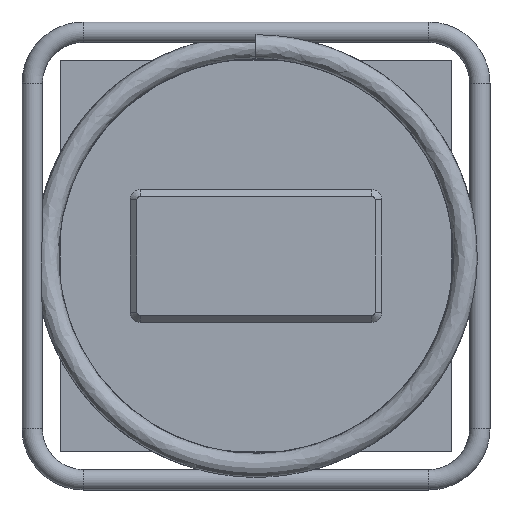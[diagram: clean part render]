
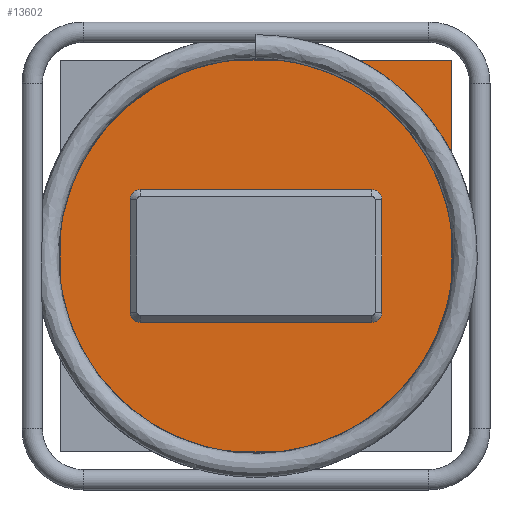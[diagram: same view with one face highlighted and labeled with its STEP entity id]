
A CAD part, front view. The second image highlights one B-rep face of the part: STEP entity #13602.
In plain terms, the highlighted planar face has unit normal (0, -1, 0).
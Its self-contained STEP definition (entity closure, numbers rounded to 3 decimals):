
#63=CIRCLE('',#13959,123.);
#64=CIRCLE('',#13960,123.);
#65=CIRCLE('',#13961,123.);
#89=CIRCLE('',#14014,6.);
#91=CIRCLE('',#14018,6.);
#93=CIRCLE('',#14022,6.);
#95=CIRCLE('',#14026,6.);
#208=FACE_BOUND('',#2681,.T.);
#1877=FACE_OUTER_BOUND('',#2680,.T.);
#2680=EDGE_LOOP('',(#11776,#11777,#11778,#11779,#11780,#11781,#11782));
#2681=EDGE_LOOP('',(#11783,#11784,#11785,#11786,#11787,#11788,#11789,#11790));
#3853=LINE('',#26974,#5009);
#3856=LINE('',#26985,#5012);
#3860=LINE('',#26997,#5016);
#3864=LINE('',#27009,#5020);
#3871=LINE('',#27024,#5027);
#3872=LINE('',#27025,#5028);
#3873=LINE('',#27027,#5029);
#3874=LINE('',#27028,#5030);
#5009=VECTOR('',#15970,136.);
#5012=VECTOR('',#15981,66.);
#5016=VECTOR('',#15993,136.);
#5020=VECTOR('',#16005,66.);
#5027=VECTOR('',#16028,87.27);
#5028=VECTOR('',#16029,87.27);
#5029=VECTOR('',#16030,158.635);
#5030=VECTOR('',#16031,158.635);
#6215=VERTEX_POINT('',#26859);
#6216=VERTEX_POINT('',#26860);
#6217=VERTEX_POINT('',#26862);
#6218=VERTEX_POINT('',#26863);
#6219=VERTEX_POINT('',#26865);
#6220=VERTEX_POINT('',#26866);
#6255=VERTEX_POINT('',#26967);
#6258=VERTEX_POINT('',#26972);
#6260=VERTEX_POINT('',#26977);
#6262=VERTEX_POINT('',#26983);
#6264=VERTEX_POINT('',#26989);
#6266=VERTEX_POINT('',#26995);
#6268=VERTEX_POINT('',#27001);
#6270=VERTEX_POINT('',#27007);
#6271=VERTEX_POINT('',#27026);
#8049=EDGE_CURVE('',#6215,#6216,#63,.T.);
#8050=EDGE_CURVE('',#6217,#6218,#64,.T.);
#8051=EDGE_CURVE('',#6219,#6220,#65,.T.);
#8092=EDGE_CURVE('',#6258,#6255,#3853,.T.);
#8094=EDGE_CURVE('',#6260,#6258,#89,.T.);
#8097=EDGE_CURVE('',#6262,#6260,#3856,.T.);
#8100=EDGE_CURVE('',#6264,#6262,#91,.T.);
#8103=EDGE_CURVE('',#6266,#6264,#3860,.T.);
#8106=EDGE_CURVE('',#6268,#6266,#93,.T.);
#8109=EDGE_CURVE('',#6270,#6268,#3864,.T.);
#8111=EDGE_CURVE('',#6255,#6270,#95,.T.);
#8118=EDGE_CURVE('',#6217,#6216,#3871,.T.);
#8119=EDGE_CURVE('',#6219,#6218,#3872,.T.);
#8120=EDGE_CURVE('',#6271,#6220,#3873,.T.);
#8121=EDGE_CURVE('',#6215,#6271,#3874,.T.);
#11776=ORIENTED_EDGE('',*,*,#8049,.T.);
#11777=ORIENTED_EDGE('',*,*,#8118,.F.);
#11778=ORIENTED_EDGE('',*,*,#8050,.T.);
#11779=ORIENTED_EDGE('',*,*,#8119,.F.);
#11780=ORIENTED_EDGE('',*,*,#8051,.T.);
#11781=ORIENTED_EDGE('',*,*,#8120,.F.);
#11782=ORIENTED_EDGE('',*,*,#8121,.F.);
#11783=ORIENTED_EDGE('',*,*,#8092,.F.);
#11784=ORIENTED_EDGE('',*,*,#8094,.F.);
#11785=ORIENTED_EDGE('',*,*,#8097,.F.);
#11786=ORIENTED_EDGE('',*,*,#8100,.F.);
#11787=ORIENTED_EDGE('',*,*,#8103,.F.);
#11788=ORIENTED_EDGE('',*,*,#8106,.F.);
#11789=ORIENTED_EDGE('',*,*,#8109,.F.);
#11790=ORIENTED_EDGE('',*,*,#8111,.F.);
#12203=PLANE('',#14032);
#13602=ADVANCED_FACE('',(#1877,#208),#12203,.F.);
#13959=AXIS2_PLACEMENT_3D('',#26861,#15845,#15846);
#13960=AXIS2_PLACEMENT_3D('',#26864,#15847,#15848);
#13961=AXIS2_PLACEMENT_3D('',#26867,#15849,#15850);
#14014=AXIS2_PLACEMENT_3D('',#26979,#15974,#15975);
#14018=AXIS2_PLACEMENT_3D('',#26991,#15986,#15987);
#14022=AXIS2_PLACEMENT_3D('',#27003,#15998,#15999);
#14026=AXIS2_PLACEMENT_3D('',#27012,#16009,#16010);
#14032=AXIS2_PLACEMENT_3D('',#27023,#16026,#16027);
#15845=DIRECTION('center_axis',(0.,-1.,0.));
#15846=DIRECTION('ref_axis',(0.,0.,-1.));
#15847=DIRECTION('center_axis',(0.,-1.,0.));
#15848=DIRECTION('ref_axis',(0.,0.,-1.));
#15849=DIRECTION('center_axis',(0.,-1.,0.));
#15850=DIRECTION('ref_axis',(0.,0.,-1.));
#15970=DIRECTION('',(-1.,0.,0.));
#15974=DIRECTION('center_axis',(0.,-1.,0.));
#15975=DIRECTION('ref_axis',(1.,0.,0.));
#15981=DIRECTION('',(0.,0.,1.));
#15986=DIRECTION('center_axis',(0.,-1.,0.));
#15987=DIRECTION('ref_axis',(0.,0.,-1.));
#15993=DIRECTION('',(1.,0.,0.));
#15998=DIRECTION('center_axis',(0.,-1.,0.));
#15999=DIRECTION('ref_axis',(-1.,0.,0.));
#16005=DIRECTION('',(0.,0.,-1.));
#16009=DIRECTION('center_axis',(0.,-1.,0.));
#16010=DIRECTION('ref_axis',(0.,0.,1.));
#16026=DIRECTION('center_axis',(0.,1.,0.));
#16027=DIRECTION('ref_axis',(0.,0.,1.));
#16028=DIRECTION('',(0.,0.,1.));
#16029=DIRECTION('',(-1.,0.,0.));
#16030=DIRECTION('',(0.,0.,-1.));
#16031=DIRECTION('',(1.,0.,0.));
#26859=CARTESIAN_POINT('',(-43.635,0.,115.));
#26860=CARTESIAN_POINT('',(-115.,0.,43.635));
#26861=CARTESIAN_POINT('Origin',(0.,0.,0.));
#26862=CARTESIAN_POINT('',(-115.,0.,-43.635));
#26863=CARTESIAN_POINT('',(-43.635,0.,-115.));
#26864=CARTESIAN_POINT('Origin',(0.,0.,0.));
#26865=CARTESIAN_POINT('',(43.635,0.,-115.));
#26866=CARTESIAN_POINT('',(115.,0.,-43.635));
#26867=CARTESIAN_POINT('Origin',(0.,0.,0.));
#26967=CARTESIAN_POINT('',(-68.,0.,39.));
#26972=CARTESIAN_POINT('',(68.,0.,39.));
#26974=CARTESIAN_POINT('',(-34.,0.,39.));
#26977=CARTESIAN_POINT('',(74.,0.,33.));
#26979=CARTESIAN_POINT('Origin',(68.,0.,33.));
#26983=CARTESIAN_POINT('',(74.,0.,-33.));
#26985=CARTESIAN_POINT('',(74.,0.,16.5));
#26989=CARTESIAN_POINT('',(68.,0.,-39.));
#26991=CARTESIAN_POINT('Origin',(68.,0.,-33.));
#26995=CARTESIAN_POINT('',(-68.,0.,-39.));
#26997=CARTESIAN_POINT('',(34.,0.,-39.));
#27001=CARTESIAN_POINT('',(-74.,0.,-33.));
#27003=CARTESIAN_POINT('Origin',(-68.,0.,-33.));
#27007=CARTESIAN_POINT('',(-74.,0.,33.));
#27009=CARTESIAN_POINT('',(-74.,0.,-16.5));
#27012=CARTESIAN_POINT('Origin',(-68.,0.,33.));
#27023=CARTESIAN_POINT('Origin',(0.,0.,0.));
#27024=CARTESIAN_POINT('',(-115.,0.,-115.));
#27025=CARTESIAN_POINT('',(115.,0.,-115.));
#27026=CARTESIAN_POINT('',(115.,0.,115.));
#27027=CARTESIAN_POINT('',(115.,0.,115.));
#27028=CARTESIAN_POINT('',(-115.,0.,115.));
